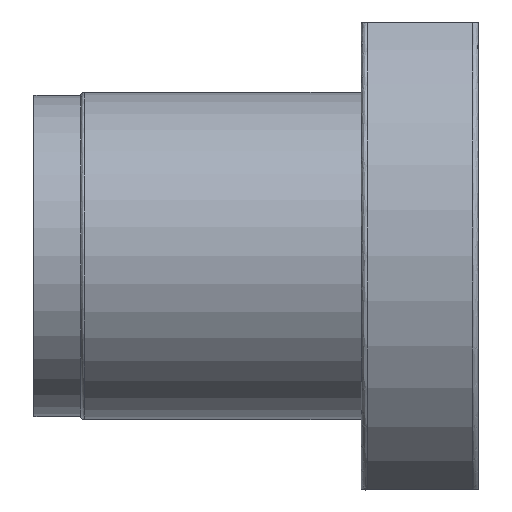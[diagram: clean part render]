
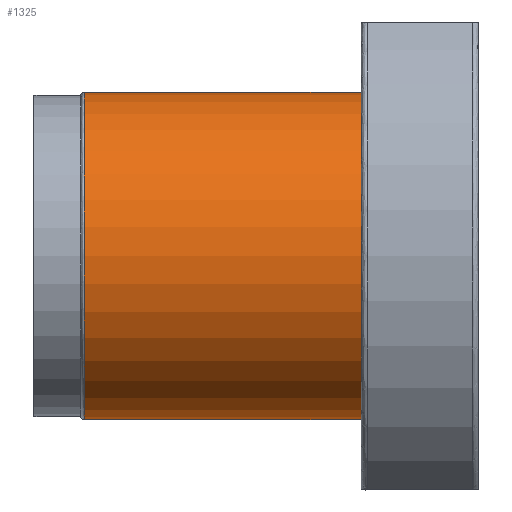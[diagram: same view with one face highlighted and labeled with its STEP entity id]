
A CAD part, top view. The second image highlights one B-rep face of the part: STEP entity #1325.
In plain terms, the highlighted cylindrical face has radius 14 mm (diameter 28 mm), a partial arc.
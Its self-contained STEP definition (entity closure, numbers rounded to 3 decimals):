
#45 = DIRECTION ( 'NONE',  ( -1., 0., 0. ) ) ;
#86 = VECTOR ( 'NONE', #1585, 1000. ) ;
#124 = AXIS2_PLACEMENT_3D ( 'NONE', #1061, #936, #488 ) ;
#154 = VERTEX_POINT ( 'NONE', #1864 ) ;
#188 = AXIS2_PLACEMENT_3D ( 'NONE', #861, #1719, #288 ) ;
#278 = CYLINDRICAL_SURFACE ( 'NONE', #188, 14. ) ;
#288 = DIRECTION ( 'NONE',  ( 0., 1., 0. ) ) ;
#308 = EDGE_LOOP ( 'NONE', ( #829, #1757, #1676, #900 ) ) ;
#419 = EDGE_CURVE ( 'NONE', #530, #1024, #1198, .T. ) ;
#488 = DIRECTION ( 'NONE',  ( 0., 1., 0. ) ) ;
#494 = DIRECTION ( 'NONE',  ( 0., 1., 0. ) ) ;
#523 = VECTOR ( 'NONE', #1487, 1000. ) ;
#529 = CARTESIAN_POINT ( 'NONE',  ( -24.1, 14., 0. ) ) ;
#530 = VERTEX_POINT ( 'NONE', #1808 ) ;
#577 = CARTESIAN_POINT ( 'NONE',  ( -47.8, 14., 0. ) ) ;
#600 = AXIS2_PLACEMENT_3D ( 'NONE', #1510, #45, #494 ) ;
#637 = LINE ( 'NONE', #882, #523 ) ;
#735 = EDGE_CURVE ( 'NONE', #154, #904, #1261, .T. ) ;
#829 = ORIENTED_EDGE ( 'NONE', *, *, #419, .T. ) ;
#861 = CARTESIAN_POINT ( 'NONE',  ( -47.8, 0., 0. ) ) ;
#882 = CARTESIAN_POINT ( 'NONE',  ( -47.8, -14., 0. ) ) ;
#900 = ORIENTED_EDGE ( 'NONE', *, *, #1512, .F. ) ;
#904 = VERTEX_POINT ( 'NONE', #529 ) ;
#936 = DIRECTION ( 'NONE',  ( 1., 0., 0. ) ) ;
#1024 = VERTEX_POINT ( 'NONE', #1332 ) ;
#1061 = CARTESIAN_POINT ( 'NONE',  ( -47.8, 0., 0. ) ) ;
#1068 = EDGE_CURVE ( 'NONE', #1024, #154, #637, .T. ) ;
#1198 = CIRCLE ( 'NONE', #124, 14. ) ;
#1261 = CIRCLE ( 'NONE', #600, 14. ) ;
#1288 = FACE_OUTER_BOUND ( 'NONE', #308, .T. ) ;
#1325 = ADVANCED_FACE ( 'NONE', ( #1288 ), #278, .T. ) ;
#1332 = CARTESIAN_POINT ( 'NONE',  ( -47.8, -14., 0. ) ) ;
#1487 = DIRECTION ( 'NONE',  ( 1., 0., 0. ) ) ;
#1510 = CARTESIAN_POINT ( 'NONE',  ( -24.1, 0., 0. ) ) ;
#1512 = EDGE_CURVE ( 'NONE', #530, #904, #1711, .T. ) ;
#1585 = DIRECTION ( 'NONE',  ( 1., 0., 0. ) ) ;
#1676 = ORIENTED_EDGE ( 'NONE', *, *, #735, .T. ) ;
#1711 = LINE ( 'NONE', #577, #86 ) ;
#1719 = DIRECTION ( 'NONE',  ( 1., 0., 0. ) ) ;
#1757 = ORIENTED_EDGE ( 'NONE', *, *, #1068, .T. ) ;
#1808 = CARTESIAN_POINT ( 'NONE',  ( -47.8, 14., 0. ) ) ;
#1864 = CARTESIAN_POINT ( 'NONE',  ( -24.1, -14., 0. ) ) ;
